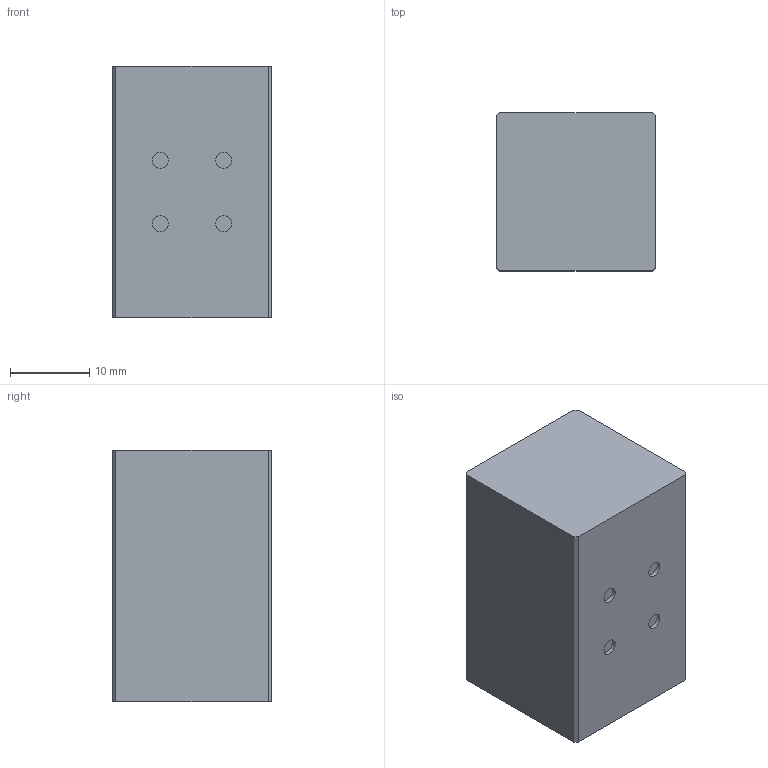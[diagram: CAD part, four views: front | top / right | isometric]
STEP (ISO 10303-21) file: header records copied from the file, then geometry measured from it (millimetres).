
FILE_DESCRIPTION(('Open CASCADE Model'),'2;1');
FILE_NAME('Open CASCADE Shape Model','2026-08-23T08:04:37',('Author'),( 'Open CASCADE'),'Open CASCADE STEP processor 7.9','Open CASCADE 7.9' ,'Unknown');
FILE_SCHEMA(('AUTOMOTIVE_DESIGN { 1 0 10303 214 1 1 1 1 }'));
Length unit declared in the file: millimetre
Products named in the file (2): =>[0:1:1:2]; COMPOUND
Assembly tree (1 placements, depth 2):
  =>[0:1:1:2]
    COMPOUND
Bounding box: 20 x 20 x 31.75 mm (x, y, z)
Volume: 12683.6 mm3; surface area: 3322.2 mm2
Topology: 1 solids, 1 shells, 18 faces, 36 edges, 24 vertices
Faces by surface type: plane 14, cylinder 4
Full cylindrical faces by diameter (mm): 2 x4
Entity records: 992 total; most frequent: CARTESIAN_POINT 176, DIRECTION 152, LINE 92, VECTOR 92, ORIENTED_EDGE 72, PCURVE 72, DEFINITIONAL_REPRESENTATION 72, EDGE_CURVE 36
